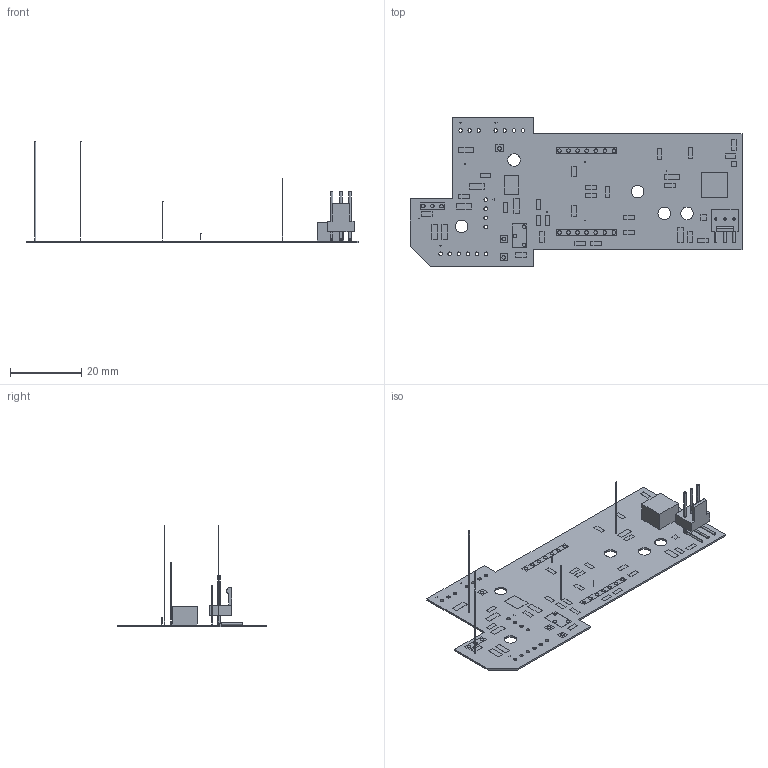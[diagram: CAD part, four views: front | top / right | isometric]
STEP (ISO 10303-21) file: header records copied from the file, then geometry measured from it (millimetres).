
FILE_DESCRIPTION(('STEP AP214'),'1');
FILE_NAME('LPC_PD_POWER(rev_0.1)_221026_BoardAndModels.step','2023-04-13T06:36:24',(' '),(' '),'Spatial InterOp 3D','XD3DPlugin XRACreate',' ');
FILE_SCHEMA(('automotive_design'));
Length unit declared in the file: millimetre
Products named in the file (72): DesignRootModel; uid__9223372036894434250; Submodel-noModelForPart_R3216_1235778408; placementOutline; Submodel-R3216_1235778408_part_R3216; Submodel-noModelForPart_C2012_3608481538; Submodel-C2012_3608481538_part_C2012; Submodel-noModelForPart_SOT23_3_433343804; Submodel-SOT23_3_433343804_part_SOT23_3; Submodel-noModelForPart_R2012_3608481538; Submodel-R2012_3608481538_part_R2012; Submodel-noModelForPart_OPA380AIDR_4189013405; Submodel-OPA380AIDR_4189013405_part_SOIC127P599X175-8N; Submodel-noModelForPart_TC6032_3104034692; Submodel-TC6032_3104034692_part_TC6032B; Submodel-noModelForPart_TC6032_3371599524; Submodel-TC6032_3371599524_part_TC6032AAA; Submodel-noModelForPart_TC3528_1234467446; Submodel-TC3528_1234467446_part_TC3528; Submodel-noModelForPart_TC3528_2167238568; Submodel-TC3528_2167238568_part_TC3528; Submodel-noModelForPart_TC3216_1235778408; Submodel-TC3216_1235778408_part_TC3216; Submodel-TC3216_1235778408_part_TC3216B; Submodel-TC3216_1235778408_part_TC3216AA; Submodel-noModelForPart_3266W-1-103LF_2195409044; Submodel-3266W-1-103LF_2195409044_part_POT_3266W; Submodel-noModelForPart_79L05_SOT-89_3563164876; Submodel-79L05_SOT-89_3563164876_part_79L05_SOT-89; Submodel-noModelForPart_7805_TO-220_1757016264; Submodel-7805_TO-220_1757016264_part_7805_TO-220; Submodel-noModelForPart_TP-3.1MM_2190001384; Submodel-TP-3.1MM_2190001384_part_TP-3.1MM; Submodel-noModelForPart_TP-3.14MM_2182399518; Submodel-TP-3.14MM_2182399518_part_TP-3.14MM; Submodel-noModelForPart_HEADER-2.54MM-7P_1328737372; Submodel-HEADER-2.54MM-7P_1328737372_part_HEADER-2.54MM-7P; Submodel-noModelForPart_NW-A2510-4A_666735958; Submodel-NW-A2510-4A_666735958_part_NW-A2510-4A; Submodel-noModelForPart_NW-A2510-3A_666735958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
Assembly tree (106 placements, depth 5):
  LPC_PD_POWER(rev_0.1)_221026_BoardAndModels
    DesignRootModel
      uid__9223372036894434250
      Submodel-R3216_1235778408_part_R3216  x5
        Submodel-noModelForPart_R3216_1235778408
          placementOutline
      Submodel-C2012_3608481538_part_C2012  x12
        Submodel-noModelForPart_C2012_3608481538
          placementOutline
      Submodel-SOT23_3_433343804_part_SOT23_3
        Submodel-noModelForPart_SOT23_3_433343804
          placementOutline
      Submodel-R2012_3608481538_part_R2012  x9
        Submodel-noModelForPart_R2012_3608481538
          placementOutline
      Submodel-OPA380AIDR_4189013405_part_SOIC127P599X175-8N
        Submodel-noModelForPart_OPA380AIDR_4189013405
          placementOutline
      Submodel-TC6032_3104034692_part_TC6032B
        Submodel-noModelForPart_TC6032_3104034692
          placementOutline
      Submodel-TC6032_3371599524_part_TC6032AAA
        Submodel-noModelForPart_TC6032_3371599524
          placementOutline
      Submodel-TC3528_1234467446_part_TC3528
        Submodel-noModelForPart_TC3528_1234467446
          placementOutline
      Submodel-TC3528_2167238568_part_TC3528
        Submodel-noModelForPart_TC3528_2167238568
          placementOutline
      Submodel-TC3216_1235778408_part_TC3216  x3
        Submodel-noModelForPart_TC3216_1235778408
          placementOutline
      Submodel-TC3216_1235778408_part_TC3216B
        Submodel-noModelForPart_TC3216_1235778408
          placementOutline
      Submodel-TC3216_1235778408_part_TC3216AA
        Submodel-noModelForPart_TC3216_1235778408
          placementOutline
      Submodel-3266W-1-103LF_2195409044_part_POT_3266W
        Submodel-noModelForPart_3266W-1-103LF_2195409044
          placementOutline
      Submodel-79L05_SOT-89_3563164876_part_79L05_SOT-89
        Submodel-noModelForPart_79L05_SOT-89_3563164876
          placementOutline
      Submodel-7805_TO-220_1757016264_part_7805_TO-220
        Submodel-noModelForPart_7805_TO-220_1757016264
          placementOutline
      Submodel-TP-3.1MM_2190001384_part_TP-3.1MM  x2
        Submodel-noModelForPart_TP-3.1MM_2190001384
          placementOutline
      Submodel-TP-3.14MM_2182399518_part_TP-3.14MM  x3
        Submodel-noModelForPart_TP-3.14MM_2182399518
          placementOutline
      Submodel-HEADER-2.54MM-7P_1328737372_part_HEADER-2.54MM-7P  x2
        Submodel-noModelForPart_HEADER-2.54MM-7P_1328737372
          placementOutline
      Submodel-NW-A2510-4A_666735958_part_NW-A2510-4A  x2
        Submodel-noModelForPart_NW-A2510-4A_666735958
          placementOutline
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Bounding box: 92.97 x 41.85 x 28.54 mm (x, y, z)
Volume: 1917 mm3; surface area: 7425.5 mm2
Topology: 58 solids, 58 shells, 428 faces, 910 edges, 604 vertices
Faces by surface type: plane 365, cylinder 63
Full cylindrical faces by diameter (mm): 0.2 x6, 0.965 x3, 1 x37, 3.5 x5
Entity records: 10133 total; most frequent: DIRECTION 1322, CARTESIAN_POINT 1142, ORIENTED_EDGE 884, AXIS2_PLACEMENT_3D 506, EDGE_CURVE 442, EDGE_LOOP 366, VERTEX_POINT 326, LINE 310
